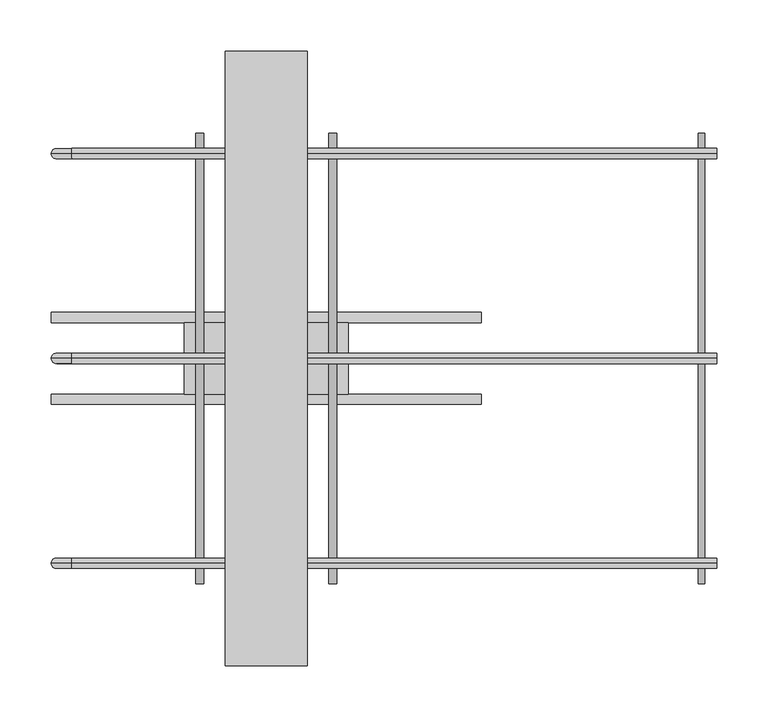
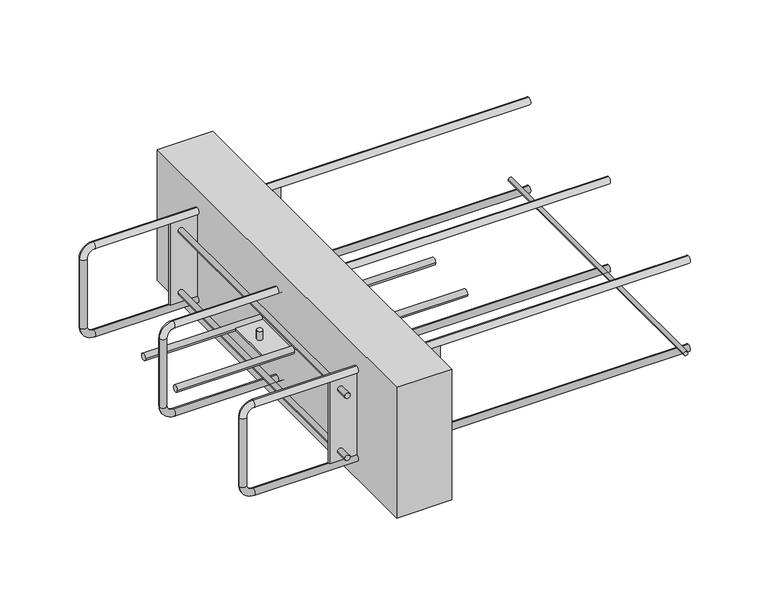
"""IFC4 building model written with IfcOpenShell, lengths in millimetres: proxy geometry, ACINOXplus_Typenreihe_Ux-Ox : UA+ S1."""

from ifc_helpers import new_model, si_unit, point, frame, frame_2d, origin, place, context, project, spatial, polyline, circle_curve, ellipse_curve, trimmed, segment, composite_curve, outline, extrude, source, transform, mapped, element, save
from ifc_brep_helpers import plane_surface, cylinder_surface, revolved_surface, advanced_brep


def generic_models_50560ebb(model_context):
    return source(origin(), model_context, "Body", "SolidModel", [
        extrude(outline(composite_curve([segment(trimmed(circle_curve(frame_2d((-159.5, 425.0)), 3.0), [point((-159.5, 428.0))], [point((-159.5, 422.0))], False, "CARTESIAN"), True, "CONTINUOUS"), segment(trimmed(circle_curve(frame_2d((-159.5, 425.0)), 3.0), [point((-159.5, 422.0))], [point((-159.5, 428.0))], False, "CARTESIAN"), True, "CONTINUOUS")], self_intersect=False)), frame((0.0, -220.0, 0.0), z_axis=(0.0, 1.0, 0.0), x_axis=(0.0, 0.0, 1.0)), (0.0, 0.0, 1.0), 440.0),
        extrude(outline(polyline([(40.0, 300.0), (40.0, -300.0), (-40.0, -300.0), (-40.0, 300.0), (40.0, 300.0)])), frame((0.0, 0.0, -200.0), z_axis=(0.0, 0.0, 1.0), x_axis=(1.0, 0.0, 0.0)), (0.0, 0.0, 1.0), 200.0),
        extrude(outline(composite_curve([segment(trimmed(circle_curve(frame_2d((-40.0, -100.0)), 5.0), [point((-45.0, -100.0))], [point((-35.0, -100.0))], False, "CARTESIAN"), True, "CONTINUOUS"), segment(trimmed(circle_curve(frame_2d((-40.0, -100.0)), 5.0), [point((-35.0, -100.0))], [point((-45.0, -100.0))], False, "CARTESIAN"), True, "CONTINUOUS")], self_intersect=False)), frame((-210.0, 0.0, 0.0), z_axis=(1.0, 0.0, 0.0), x_axis=(0.0, 1.0, 0.0)), (0.0, 0.0, 1.0), 420.0),
        extrude(outline(composite_curve([segment(trimmed(circle_curve(frame_2d((40.0, -100.0)), 5.0), [point((35.0, -100.0))], [point((45.0, -100.0))], False, "CARTESIAN"), True, "CONTINUOUS"), segment(trimmed(circle_curve(frame_2d((40.0, -100.0)), 5.0), [point((45.0, -100.0))], [point((35.0, -100.0))], False, "CARTESIAN"), True, "CONTINUOUS")], self_intersect=False)), frame((-210.0, 0.0, 0.0), z_axis=(1.0, 0.0, 0.0), x_axis=(0.0, 1.0, 0.0)), (0.0, 0.0, 1.0), 420.0),
        extrude(outline(composite_curve([segment(trimmed(circle_curve(frame_2d((-65.0, 0.0)), 4.0), [point((-61.0, 0.0))], [point((-69.0, 0.0))], False, "CARTESIAN"), True, "CONTINUOUS"), segment(trimmed(circle_curve(frame_2d((-65.0, 0.0)), 4.0), [point((-69.0, 0.0))], [point((-61.0, 0.0))], False, "CARTESIAN"), True, "CONTINUOUS")], self_intersect=False)), frame((0.0, 0.0, -98.5), z_axis=(0.0, 0.0, 1.0), x_axis=(1.0, 0.0, 0.0)), (0.0, 0.0, 1.0), 13.5),
        extrude(outline(composite_curve([segment(trimmed(circle_curve(frame_2d((65.0, 0.0)), 4.0), [point((69.0, 0.0))], [point((61.0, 0.0))], False, "CARTESIAN"), True, "CONTINUOUS"), segment(trimmed(circle_curve(frame_2d((65.0, 0.0)), 4.0), [point((61.0, 0.0))], [point((69.0, 0.0))], False, "CARTESIAN"), True, "CONTINUOUS")], self_intersect=False)), frame((0.0, 0.0, -98.5), z_axis=(0.0, 0.0, 1.0), x_axis=(1.0, 0.0, 0.0)), (0.0, 0.0, 1.0), 13.5),
        extrude(outline(composite_curve([segment(trimmed(circle_curve(frame_2d((-65.0, 0.0)), 4.0), [point((-69.0, 0.0))], [point((-61.0, 0.0))], False, "CARTESIAN"), True, "CONTINUOUS"), segment(trimmed(circle_curve(frame_2d((-65.0, 0.0)), 4.0), [point((-61.0, 0.0))], [point((-69.0, 0.0))], False, "CARTESIAN"), True, "CONTINUOUS")], self_intersect=False)), frame((0.0, 0.0, -115.0), z_axis=(0.0, 0.0, 1.0), x_axis=(1.0, 0.0, 0.0)), (0.0, 0.0, 1.0), 13.5),
        extrude(outline(composite_curve([segment(trimmed(circle_curve(frame_2d((65.0, 0.0)), 4.0), [point((61.0, 0.0))], [point((69.0, 0.0))], False, "CARTESIAN"), True, "CONTINUOUS"), segment(trimmed(circle_curve(frame_2d((65.0, 0.0)), 4.0), [point((69.0, 0.0))], [point((61.0, 0.0))], False, "CARTESIAN"), True, "CONTINUOUS")], self_intersect=False)), frame((0.0, 0.0, -115.0), z_axis=(0.0, 0.0, 1.0), x_axis=(1.0, 0.0, 0.0)), (0.0, 0.0, 1.0), 13.5),
        extrude(outline(polyline([(80.0, 35.0), (80.0, -35.0), (-80.0, -35.0), (-80.0, 35.0), (80.0, 35.0)])), frame((0.0, 0.0, -101.5), z_axis=(0.0, 0.0, 1.0), x_axis=(1.0, 0.0, 0.0)), (0.0, 0.0, 1.0), 3.0),
        extrude(outline(polyline([(80.0, -198.5), (80.0, -201.5), (-80.0, -201.5), (-80.0, -198.5), (80.0, -198.5)])), frame((0.0, 0.0, -162.5), z_axis=(0.0, 0.0, 1.0), x_axis=(1.0, 0.0, 0.0)), (0.0, 0.0, 1.0), 125.0),
        extrude(outline(polyline([(80.0, 201.5), (80.0, 198.5), (-80.0, 198.5), (-80.0, 201.5), (80.0, 201.5)])), frame((0.0, 0.0, -162.5), z_axis=(0.0, 0.0, 1.0), x_axis=(1.0, 0.0, 0.0)), (0.0, 0.0, 1.0), 125.0),
        extrude(outline(composite_curve([segment(trimmed(circle_curve(frame_2d((-147.5, -65.0)), 4.0), [point((-147.5, -69.0))], [point((-147.5, -61.0))], False, "CARTESIAN"), True, "CONTINUOUS"), segment(trimmed(circle_curve(frame_2d((-147.5, -65.0)), 4.0), [point((-147.5, -61.0))], [point((-147.5, -69.0))], False, "CARTESIAN"), True, "CONTINUOUS")], self_intersect=False)), frame((0.0, 201.5, 0.0), z_axis=(0.0, 1.0, 0.0), x_axis=(0.0, 0.0, 1.0)), (0.0, 0.0, 1.0), 18.5),
        extrude(outline(composite_curve([segment(trimmed(circle_curve(frame_2d((-147.5, -65.0)), 4.0), [point((-147.5, -61.0))], [point((-147.5, -69.0))], False, "CARTESIAN"), True, "CONTINUOUS"), segment(trimmed(circle_curve(frame_2d((-147.5, -65.0)), 4.0), [point((-147.5, -69.0))], [point((-147.5, -61.0))], False, "CARTESIAN"), True, "CONTINUOUS")], self_intersect=False)), frame((0.0, -220.0, 0.0), z_axis=(0.0, 1.0, 0.0), x_axis=(0.0, 0.0, 1.0)), (0.0, 0.0, 1.0), 18.5),
        extrude(outline(composite_curve([segment(trimmed(circle_curve(frame_2d((-147.5, -65.0)), 4.0), [point((-147.5, -69.0))], [point((-147.5, -61.0))], False, "CARTESIAN"), True, "CONTINUOUS"), segment(trimmed(circle_curve(frame_2d((-147.5, -65.0)), 4.0), [point((-147.5, -61.0))], [point((-147.5, -69.0))], False, "CARTESIAN"), True, "CONTINUOUS")], self_intersect=False)), frame((0.0, -198.5, 0.0), z_axis=(0.0, 1.0, 0.0), x_axis=(0.0, 0.0, 1.0)), (0.0, 0.0, 1.0), 397.0),
        extrude(outline(composite_curve([segment(trimmed(circle_curve(frame_2d((-147.5, 65.0)), 4.0), [point((-147.5, 61.0))], [point((-147.5, 69.0))], False, "CARTESIAN"), True, "CONTINUOUS"), segment(trimmed(circle_curve(frame_2d((-147.5, 65.0)), 4.0), [point((-147.5, 69.0))], [point((-147.5, 61.0))], False, "CARTESIAN"), True, "CONTINUOUS")], self_intersect=False)), frame((0.0, 201.5, 0.0), z_axis=(0.0, 1.0, 0.0), x_axis=(0.0, 0.0, 1.0)), (0.0, 0.0, 1.0), 18.5),
        extrude(outline(composite_curve([segment(trimmed(circle_curve(frame_2d((-147.5, 65.0)), 4.0), [point((-147.5, 69.0))], [point((-147.5, 61.0))], False, "CARTESIAN"), True, "CONTINUOUS"), segment(trimmed(circle_curve(frame_2d((-147.5, 65.0)), 4.0), [point((-147.5, 61.0))], [point((-147.5, 69.0))], False, "CARTESIAN"), True, "CONTINUOUS")], self_intersect=False)), frame((0.0, -220.0, 0.0), z_axis=(0.0, 1.0, 0.0), x_axis=(0.0, 0.0, 1.0)), (0.0, 0.0, 1.0), 18.5),
        extrude(outline(composite_curve([segment(trimmed(circle_curve(frame_2d((-147.5, 65.0)), 4.0), [point((-147.5, 61.0))], [point((-147.5, 69.0))], False, "CARTESIAN"), True, "CONTINUOUS"), segment(trimmed(circle_curve(frame_2d((-147.5, 65.0)), 4.0), [point((-147.5, 69.0))], [point((-147.5, 61.0))], False, "CARTESIAN"), True, "CONTINUOUS")], self_intersect=False)), frame((0.0, -198.5, 0.0), z_axis=(0.0, 1.0, 0.0), x_axis=(0.0, 0.0, 1.0)), (0.0, 0.0, 1.0), 397.0),
        extrude(outline(composite_curve([segment(trimmed(circle_curve(frame_2d((-52.5, -65.0)), 4.0), [point((-52.5, -69.0))], [point((-52.5, -61.0))], False, "CARTESIAN"), True, "CONTINUOUS"), segment(trimmed(circle_curve(frame_2d((-52.5, -65.0)), 4.0), [point((-52.5, -61.0))], [point((-52.5, -69.0))], False, "CARTESIAN"), True, "CONTINUOUS")], self_intersect=False)), frame((0.0, 201.5, 0.0), z_axis=(0.0, 1.0, 0.0), x_axis=(0.0, 0.0, 1.0)), (0.0, 0.0, 1.0), 18.5),
        extrude(outline(composite_curve([segment(trimmed(circle_curve(frame_2d((-52.5, -65.0)), 4.0), [point((-52.5, -61.0))], [point((-52.5, -69.0))], False, "CARTESIAN"), True, "CONTINUOUS"), segment(trimmed(circle_curve(frame_2d((-52.5, -65.0)), 4.0), [point((-52.5, -69.0))], [point((-52.5, -61.0))], False, "CARTESIAN"), True, "CONTINUOUS")], self_intersect=False)), frame((0.0, -220.0, 0.0), z_axis=(0.0, 1.0, 0.0), x_axis=(0.0, 0.0, 1.0)), (0.0, 0.0, 1.0), 18.5),
        extrude(outline(composite_curve([segment(trimmed(circle_curve(frame_2d((-52.5, -65.0)), 4.0), [point((-52.5, -69.0))], [point((-52.5, -61.0))], False, "CARTESIAN"), True, "CONTINUOUS"), segment(trimmed(circle_curve(frame_2d((-52.5, -65.0)), 4.0), [point((-52.5, -61.0))], [point((-52.5, -69.0))], False, "CARTESIAN"), True, "CONTINUOUS")], self_intersect=False)), frame((0.0, -198.5, 0.0), z_axis=(0.0, 1.0, 0.0), x_axis=(0.0, 0.0, 1.0)), (0.0, 0.0, 1.0), 397.0),
        extrude(outline(composite_curve([segment(trimmed(circle_curve(frame_2d((-52.5, 65.0)), 4.0), [point((-52.5, 61.0))], [point((-52.5, 69.0))], False, "CARTESIAN"), True, "CONTINUOUS"), segment(trimmed(circle_curve(frame_2d((-52.5, 65.0)), 4.0), [point((-52.5, 69.0))], [point((-52.5, 61.0))], False, "CARTESIAN"), True, "CONTINUOUS")], self_intersect=False)), frame((0.0, 201.5, 0.0), z_axis=(0.0, 1.0, 0.0), x_axis=(0.0, 0.0, 1.0)), (0.0, 0.0, 1.0), 18.5),
        extrude(outline(composite_curve([segment(trimmed(circle_curve(frame_2d((-52.5, 65.0)), 4.0), [point((-52.5, 69.0))], [point((-52.5, 61.0))], False, "CARTESIAN"), True, "CONTINUOUS"), segment(trimmed(circle_curve(frame_2d((-52.5, 65.0)), 4.0), [point((-52.5, 61.0))], [point((-52.5, 69.0))], False, "CARTESIAN"), True, "CONTINUOUS")], self_intersect=False)), frame((0.0, -220.0, 0.0), z_axis=(0.0, 1.0, 0.0), x_axis=(0.0, 0.0, 1.0)), (0.0, 0.0, 1.0), 18.5),
        extrude(outline(composite_curve([segment(trimmed(circle_curve(frame_2d((-52.5, 65.0)), 4.0), [point((-52.5, 61.0))], [point((-52.5, 69.0))], False, "CARTESIAN"), True, "CONTINUOUS"), segment(trimmed(circle_curve(frame_2d((-52.5, 65.0)), 4.0), [point((-52.5, 69.0))], [point((-52.5, 61.0))], False, "CARTESIAN"), True, "CONTINUOUS")], self_intersect=False)), frame((0.0, -198.5, 0.0), z_axis=(0.0, 1.0, 0.0), x_axis=(0.0, 0.0, 1.0)), (0.0, 0.0, 1.0), 397.0),
        advanced_brep(
        [(440.0, 0.0, -27.5), (440.0, 0.0, -37.5), (-190.0, 0.0, -27.5), (-190.0, 0.0, -37.5), (-200.0, 0.0, -47.5), (-210.0, 0.0, -47.5), (-210.0, 0.0, -152.5), (-200.0, 0.0, -152.5), (-190.0, 0.0, -162.5), (-190.0, 0.0, -172.5), (440.0, 0.0, -172.5), (440.0, 0.0, -162.5)],
        [
            (0, 1, circle_curve(frame((440.0, 0.0, -32.5), z_axis=(1.0, 0.0, 0.0), x_axis=(0.0, 0.0, -1.0)), 5.0)),
            (1, 0, circle_curve(frame((440.0, 0.0, -32.5), z_axis=(1.0, 0.0, 0.0), x_axis=(0.0, 0.0, -1.0)), 5.0)),
            (0, 2),
            (2, 3, circle_curve(frame((-190.0, 0.0, -32.5), z_axis=(1.0, 0.0, 0.0), x_axis=(0.0, 0.0, -1.0)), 5.0)),
            (3, 1),
            (3, 2, circle_curve(frame((-190.0, 0.0, -32.5), z_axis=(1.0, 0.0, 0.0), x_axis=(0.0, 0.0, -1.0)), 5.0)),
            (4, 3, circle_curve(frame((-190.0, 0.0, -47.5), z_axis=(0.0, 1.0, 0.0), x_axis=(0.0, 0.0, 1.0)), 10.0)),
            (2, 5, circle_curve(frame((-190.0, 0.0, -47.5), z_axis=(0.0, -1.0, 0.0), x_axis=(0.0, 0.0, 1.0)), 20.0)),
            (5, 4, circle_curve(frame((-205.0, 0.0, -47.5), z_axis=(0.0, 0.0, 1.0), x_axis=(1.0, 0.0, 0.0)), 5.0)),
            (4, 5, circle_curve(frame((-205.0, 0.0, -47.5), z_axis=(0.0, 0.0, 1.0), x_axis=(1.0, 0.0, 0.0)), 5.0)),
            (5, 6),
            (6, 7, circle_curve(frame((-205.0, 0.0, -152.5), z_axis=(0.0, 0.0, 1.0), x_axis=(1.0, 0.0, 0.0)), 5.0)),
            (7, 4),
            (7, 6, circle_curve(frame((-205.0, 0.0, -152.5), z_axis=(0.0, 0.0, 1.0), x_axis=(1.0, 0.0, 0.0)), 5.0)),
            (8, 7, circle_curve(frame((-190.0, 0.0, -152.5), z_axis=(0.0, 1.0, 0.0), x_axis=(-1.0, 0.0, 0.0)), 10.0)),
            (6, 9, circle_curve(frame((-190.0, 0.0, -152.5), z_axis=(0.0, -1.0, 0.0), x_axis=(-1.0, 0.0, 0.0)), 20.0)),
            (9, 8, circle_curve(frame((-190.0, 0.0, -167.5), z_axis=(-1.0, 0.0, 0.0), x_axis=(0.0, 0.0, 1.0)), 5.0)),
            (8, 9, circle_curve(frame((-190.0, 0.0, -167.5), z_axis=(-1.0, 0.0, 0.0), x_axis=(0.0, 0.0, 1.0)), 5.0)),
            (10, 11, circle_curve(frame((440.0, 0.0, -167.5), z_axis=(1.0, 0.0, 0.0), x_axis=(0.0, 0.0, 1.0)), 5.0)),
            (11, 10, circle_curve(frame((440.0, 0.0, -167.5), z_axis=(1.0, 0.0, 0.0), x_axis=(0.0, 0.0, 1.0)), 5.0)),
            (9, 10),
            (11, 8),
        ],
        [
            plane_surface(frame((440.0, 0.0, -32.5), z_axis=(1.0, 0.0, 0.0), x_axis=(0.0, -1.0, 0.0))),
            cylinder_surface(frame((440.0, 0.0, -32.5), z_axis=(1.0, 0.0, 0.0), x_axis=(0.0, 0.0, -1.0)), 5.0),
            revolved_surface(trimmed(ellipse_curve(frame((-190.0, 0.0, -32.5), z_axis=(1.0, 0.0, 0.0), x_axis=(0.0, 0.0, -1.0)), 5.0, 5.0), [point((-190.0, 0.0, -27.5))], [point((-190.0, 0.0, -37.5))], True, "CARTESIAN"), (-190.0, 0.0, -47.5), (0.0, -1.0, 0.0)),
            revolved_surface(trimmed(ellipse_curve(frame((-190.0, 0.0, -32.5), z_axis=(1.0, 0.0, 0.0), x_axis=(0.0, 0.0, -1.0)), 5.0, 5.0), [point((-190.0, 0.0, -37.5))], [point((-190.0, 0.0, -27.5))], True, "CARTESIAN"), (-190.0, 0.0, -47.5), (0.0, -1.0, 0.0)),
            cylinder_surface(frame((-205.0, 0.0, -47.5), z_axis=(0.0, 0.0, 1.0), x_axis=(1.0, 0.0, 0.0)), 5.0),
            revolved_surface(trimmed(ellipse_curve(frame((-205.0, 0.0, -152.5), z_axis=(0.0, 0.0, 1.0), x_axis=(1.0, 0.0, 0.0)), 5.0, 5.0), [point((-210.0, 0.0, -152.5))], [point((-200.0, 0.0, -152.5))], True, "CARTESIAN"), (-190.0, 0.0, -152.5), (0.0, -1.0, 0.0)),
            revolved_surface(trimmed(ellipse_curve(frame((-205.0, 0.0, -152.5), z_axis=(0.0, 0.0, 1.0), x_axis=(1.0, 0.0, 0.0)), 5.0, 5.0), [point((-200.0, 0.0, -152.5))], [point((-210.0, 0.0, -152.5))], True, "CARTESIAN"), (-190.0, 0.0, -152.5), (0.0, -1.0, 0.0)),
            plane_surface(frame((440.0, 0.0, -167.5), z_axis=(1.0, 0.0, 0.0), x_axis=(0.0, -1.0, 0.0))),
            cylinder_surface(frame((-190.0, 0.0, -167.5), z_axis=(-1.0, 0.0, 0.0), x_axis=(0.0, 0.0, 1.0)), 5.0),
        ],
        [
            (0, [[1, 2]]),
            (1, [[-1, 3, 4, 5]]),
            (1, [[-2, -5, 6, -3]]),
            (2, [[7, -4, 8, 9]]),
            (3, [[-8, -6, -7, 10]]),
            (4, [[-9, 11, 12, 13]]),
            (4, [[-10, -13, 14, -11]]),
            (5, [[15, -12, 16, 17]]),
            (6, [[-16, -14, -15, 18]]),
            (7, [[19, 20]]),
            (8, [[-17, 21, -20, 22]]),
            (8, [[-18, -22, -19, -21]]),
        ],
    ),
        advanced_brep(
        [(440.0, 200.0, -27.5), (440.0, 200.0, -37.5), (-190.0, 200.0, -27.5), (-190.0, 200.0, -37.5), (-200.0, 200.0, -47.5), (-210.0, 200.0, -47.5), (-210.0, 200.0, -152.5), (-200.0, 200.0, -152.5), (-190.0, 200.0, -162.5), (-190.0, 200.0, -172.5), (440.0, 200.0, -172.5), (440.0, 200.0, -162.5)],
        [
            (0, 1, circle_curve(frame((440.0, 200.0, -32.5), z_axis=(1.0, 0.0, 0.0), x_axis=(0.0, 0.0, -1.0)), 5.0)),
            (1, 0, circle_curve(frame((440.0, 200.0, -32.5), z_axis=(1.0, 0.0, 0.0), x_axis=(0.0, 0.0, -1.0)), 5.0)),
            (0, 2),
            (2, 3, circle_curve(frame((-190.0, 200.0, -32.5), z_axis=(1.0, 0.0, 0.0), x_axis=(0.0, 0.0, -1.0)), 5.0)),
            (3, 1),
            (3, 2, circle_curve(frame((-190.0, 200.0, -32.5), z_axis=(1.0, 0.0, 0.0), x_axis=(0.0, 0.0, -1.0)), 5.0)),
            (4, 3, circle_curve(frame((-190.0, 200.0, -47.5), z_axis=(0.0, 1.0, 0.0), x_axis=(0.0, 0.0, 1.0)), 10.0)),
            (2, 5, circle_curve(frame((-190.0, 200.0, -47.5), z_axis=(0.0, -1.0, 0.0), x_axis=(0.0, 0.0, 1.0)), 20.0)),
            (5, 4, circle_curve(frame((-205.0, 200.0, -47.5), z_axis=(0.0, 0.0, 1.0), x_axis=(1.0, 0.0, 0.0)), 5.0)),
            (4, 5, circle_curve(frame((-205.0, 200.0, -47.5), z_axis=(0.0, 0.0, 1.0), x_axis=(1.0, 0.0, 0.0)), 5.0)),
            (5, 6),
            (6, 7, circle_curve(frame((-205.0, 200.0, -152.5), z_axis=(0.0, 0.0, 1.0), x_axis=(1.0, 0.0, 0.0)), 5.0)),
            (7, 4),
            (7, 6, circle_curve(frame((-205.0, 200.0, -152.5), z_axis=(0.0, 0.0, 1.0), x_axis=(1.0, 0.0, 0.0)), 5.0)),
            (8, 7, circle_curve(frame((-190.0, 200.0, -152.5), z_axis=(0.0, 1.0, 0.0), x_axis=(-1.0, 0.0, 0.0)), 10.0)),
            (6, 9, circle_curve(frame((-190.0, 200.0, -152.5), z_axis=(0.0, -1.0, 0.0), x_axis=(-1.0, 0.0, 0.0)), 20.0)),
            (9, 8, circle_curve(frame((-190.0, 200.0, -167.5), z_axis=(-1.0, 0.0, 0.0), x_axis=(0.0, 0.0, 1.0)), 5.0)),
            (8, 9, circle_curve(frame((-190.0, 200.0, -167.5), z_axis=(-1.0, 0.0, 0.0), x_axis=(0.0, 0.0, 1.0)), 5.0)),
            (10, 11, circle_curve(frame((440.0, 200.0, -167.5), z_axis=(1.0, 0.0, 0.0), x_axis=(0.0, 0.0, 1.0)), 5.0)),
            (11, 10, circle_curve(frame((440.0, 200.0, -167.5), z_axis=(1.0, 0.0, 0.0), x_axis=(0.0, 0.0, 1.0)), 5.0)),
            (9, 10),
            (11, 8),
        ],
        [
            plane_surface(frame((440.0, 200.0, -32.5), z_axis=(1.0, 0.0, 0.0), x_axis=(0.0, -1.0, 0.0))),
            cylinder_surface(frame((440.0, 200.0, -32.5), z_axis=(1.0, 0.0, 0.0), x_axis=(0.0, 0.0, -1.0)), 5.0),
            revolved_surface(trimmed(ellipse_curve(frame((-190.0, 200.0, -32.5), z_axis=(1.0, 0.0, 0.0), x_axis=(0.0, 0.0, -1.0)), 5.0, 5.0), [point((-190.0, 200.0, -27.5))], [point((-190.0, 200.0, -37.5))], True, "CARTESIAN"), (-190.0, 200.0, -47.5), (0.0, -1.0, 0.0)),
            revolved_surface(trimmed(ellipse_curve(frame((-190.0, 200.0, -32.5), z_axis=(1.0, 0.0, 0.0), x_axis=(0.0, 0.0, -1.0)), 5.0, 5.0), [point((-190.0, 200.0, -37.5))], [point((-190.0, 200.0, -27.5))], True, "CARTESIAN"), (-190.0, 200.0, -47.5), (0.0, -1.0, 0.0)),
            cylinder_surface(frame((-205.0, 200.0, -47.5), z_axis=(0.0, 0.0, 1.0), x_axis=(1.0, 0.0, 0.0)), 5.0),
            revolved_surface(trimmed(ellipse_curve(frame((-205.0, 200.0, -152.5), z_axis=(0.0, 0.0, 1.0), x_axis=(1.0, 0.0, 0.0)), 5.0, 5.0), [point((-210.0, 200.0, -152.5))], [point((-200.0, 200.0, -152.5))], True, "CARTESIAN"), (-190.0, 200.0, -152.5), (0.0, -1.0, 0.0)),
            revolved_surface(trimmed(ellipse_curve(frame((-205.0, 200.0, -152.5), z_axis=(0.0, 0.0, 1.0), x_axis=(1.0, 0.0, 0.0)), 5.0, 5.0), [point((-200.0, 200.0, -152.5))], [point((-210.0, 200.0, -152.5))], True, "CARTESIAN"), (-190.0, 200.0, -152.5), (0.0, -1.0, 0.0)),
            plane_surface(frame((440.0, 200.0, -167.5), z_axis=(1.0, 0.0, 0.0), x_axis=(0.0, -1.0, 0.0))),
            cylinder_surface(frame((-190.0, 200.0, -167.5), z_axis=(-1.0, 0.0, 0.0), x_axis=(0.0, 0.0, 1.0)), 5.0),
        ],
        [
            (0, [[1, 2]]),
            (1, [[-1, 3, 4, 5]]),
            (1, [[-2, -5, 6, -3]]),
            (2, [[7, -4, 8, 9]]),
            (3, [[-8, -6, -7, 10]]),
            (4, [[-9, 11, 12, 13]]),
            (4, [[-10, -13, 14, -11]]),
            (5, [[15, -12, 16, 17]]),
            (6, [[-16, -14, -15, 18]]),
            (7, [[19, 20]]),
            (8, [[-17, 21, -20, 22]]),
            (8, [[-18, -22, -19, -21]]),
        ],
    ),
        advanced_brep(
        [(440.0, -200.0, -27.5), (440.0, -200.0, -37.5), (-190.0, -200.0, -27.5), (-190.0, -200.0, -37.5), (-200.0, -200.0, -47.5), (-210.0, -200.0, -47.5), (-210.0, -200.0, -152.5), (-200.0, -200.0, -152.5), (-190.0, -200.0, -162.5), (-190.0, -200.0, -172.5), (440.0, -200.0, -172.5), (440.0, -200.0, -162.5)],
        [
            (0, 1, circle_curve(frame((440.0, -200.0, -32.5), z_axis=(1.0, 0.0, 0.0), x_axis=(0.0, 0.0, -1.0)), 5.0)),
            (1, 0, circle_curve(frame((440.0, -200.0, -32.5), z_axis=(1.0, 0.0, 0.0), x_axis=(0.0, 0.0, -1.0)), 5.0)),
            (0, 2),
            (2, 3, circle_curve(frame((-190.0, -200.0, -32.5), z_axis=(1.0, 0.0, 0.0), x_axis=(0.0, 0.0, -1.0)), 5.0)),
            (3, 1),
            (3, 2, circle_curve(frame((-190.0, -200.0, -32.5), z_axis=(1.0, 0.0, 0.0), x_axis=(0.0, 0.0, -1.0)), 5.0)),
            (4, 3, circle_curve(frame((-190.0, -200.0, -47.5), z_axis=(0.0, 1.0, 0.0), x_axis=(0.0, 0.0, 1.0)), 10.0)),
            (2, 5, circle_curve(frame((-190.0, -200.0, -47.5), z_axis=(0.0, -1.0, 0.0), x_axis=(0.0, 0.0, 1.0)), 20.0)),
            (5, 4, circle_curve(frame((-205.0, -200.0, -47.5), z_axis=(0.0, 0.0, 1.0), x_axis=(1.0, 0.0, 0.0)), 5.0)),
            (4, 5, circle_curve(frame((-205.0, -200.0, -47.5), z_axis=(0.0, 0.0, 1.0), x_axis=(1.0, 0.0, 0.0)), 5.0)),
            (5, 6),
            (6, 7, circle_curve(frame((-205.0, -200.0, -152.5), z_axis=(0.0, 0.0, 1.0), x_axis=(1.0, 0.0, 0.0)), 5.0)),
            (7, 4),
            (7, 6, circle_curve(frame((-205.0, -200.0, -152.5), z_axis=(0.0, 0.0, 1.0), x_axis=(1.0, 0.0, 0.0)), 5.0)),
            (8, 7, circle_curve(frame((-190.0, -200.0, -152.5), z_axis=(0.0, 1.0, 0.0), x_axis=(-1.0, 0.0, 0.0)), 10.0)),
            (6, 9, circle_curve(frame((-190.0, -200.0, -152.5), z_axis=(0.0, -1.0, 0.0), x_axis=(-1.0, 0.0, 0.0)), 20.0)),
            (9, 8, circle_curve(frame((-190.0, -200.0, -167.5), z_axis=(-1.0, 0.0, 0.0), x_axis=(0.0, 0.0, 1.0)), 5.0)),
            (8, 9, circle_curve(frame((-190.0, -200.0, -167.5), z_axis=(-1.0, 0.0, 0.0), x_axis=(0.0, 0.0, 1.0)), 5.0)),
            (10, 11, circle_curve(frame((440.0, -200.0, -167.5), z_axis=(1.0, 0.0, 0.0), x_axis=(0.0, 0.0, 1.0)), 5.0)),
            (11, 10, circle_curve(frame((440.0, -200.0, -167.5), z_axis=(1.0, 0.0, 0.0), x_axis=(0.0, 0.0, 1.0)), 5.0)),
            (9, 10),
            (11, 8),
        ],
        [
            plane_surface(frame((440.0, -200.0, -32.5), z_axis=(1.0, 0.0, 0.0), x_axis=(0.0, -1.0, 0.0))),
            cylinder_surface(frame((440.0, -200.0, -32.5), z_axis=(1.0, 0.0, 0.0), x_axis=(0.0, 0.0, -1.0)), 5.0),
            revolved_surface(trimmed(ellipse_curve(frame((-190.0, -200.0, -32.5), z_axis=(1.0, 0.0, 0.0), x_axis=(0.0, 0.0, -1.0)), 5.0, 5.0), [point((-190.0, -200.0, -27.5))], [point((-190.0, -200.0, -37.5))], True, "CARTESIAN"), (-190.0, -200.0, -47.5), (0.0, -1.0, 0.0)),
            revolved_surface(trimmed(ellipse_curve(frame((-190.0, -200.0, -32.5), z_axis=(1.0, 0.0, 0.0), x_axis=(0.0, 0.0, -1.0)), 5.0, 5.0), [point((-190.0, -200.0, -37.5))], [point((-190.0, -200.0, -27.5))], True, "CARTESIAN"), (-190.0, -200.0, -47.5), (0.0, -1.0, 0.0)),
            cylinder_surface(frame((-205.0, -200.0, -47.5), z_axis=(0.0, 0.0, 1.0), x_axis=(1.0, 0.0, 0.0)), 5.0),
            revolved_surface(trimmed(ellipse_curve(frame((-205.0, -200.0, -152.5), z_axis=(0.0, 0.0, 1.0), x_axis=(1.0, 0.0, 0.0)), 5.0, 5.0), [point((-210.0, -200.0, -152.5))], [point((-200.0, -200.0, -152.5))], True, "CARTESIAN"), (-190.0, -200.0, -152.5), (0.0, -1.0, 0.0)),
            revolved_surface(trimmed(ellipse_curve(frame((-205.0, -200.0, -152.5), z_axis=(0.0, 0.0, 1.0), x_axis=(1.0, 0.0, 0.0)), 5.0, 5.0), [point((-200.0, -200.0, -152.5))], [point((-210.0, -200.0, -152.5))], True, "CARTESIAN"), (-190.0, -200.0, -152.5), (0.0, -1.0, 0.0)),
            plane_surface(frame((440.0, -200.0, -167.5), z_axis=(1.0, 0.0, 0.0), x_axis=(0.0, -1.0, 0.0))),
            cylinder_surface(frame((-190.0, -200.0, -167.5), z_axis=(-1.0, 0.0, 0.0), x_axis=(0.0, 0.0, 1.0)), 5.0),
        ],
        [
            (0, [[1, 2]]),
            (1, [[-1, 3, 4, 5]]),
            (1, [[-2, -5, 6, -3]]),
            (2, [[7, -4, 8, 9]]),
            (3, [[-8, -6, -7, 10]]),
            (4, [[-9, 11, 12, 13]]),
            (4, [[-10, -13, 14, -11]]),
            (5, [[15, -12, 16, 17]]),
            (6, [[-16, -14, -15, 18]]),
            (7, [[19, 20]]),
            (8, [[-17, 21, -20, 22]]),
            (8, [[-18, -22, -19, -21]]),
        ],
    ),
    ])


if __name__ == "__main__":
    model = new_model("IFC4")
    model_context = context("Model", 3, world=origin())
    ifc_project = project(units=[si_unit("LENGTHUNIT", "METRE", prefix="MILLI")], contexts=[model_context])
    site = spatial("IfcSite", under=ifc_project)
    building = spatial("IfcBuilding", under=site)
    placement = place(None, origin())
    generic_models_shape = generic_models_50560ebb(model_context)
    element("IfcBuildingElementProxy", 1, Name="ACINOXplus_Typenreihe_Ux-Ox : UA+ S1", ObjectType="ACINOXplus_Typenreihe_Ux-Ox : UA+ S1", at=placement, inside=building, context=model_context, shape_type="MappedRepresentation", body=[
        mapped(generic_models_shape, transform((0.0, 0.0, 0.0), x_axis=(1.0, 0.0, 0.0), y_axis=(0.0, 1.0, 0.0), z_axis=(0.0, 0.0, 1.0))),
    ])
    save(model, "model.ifc")
